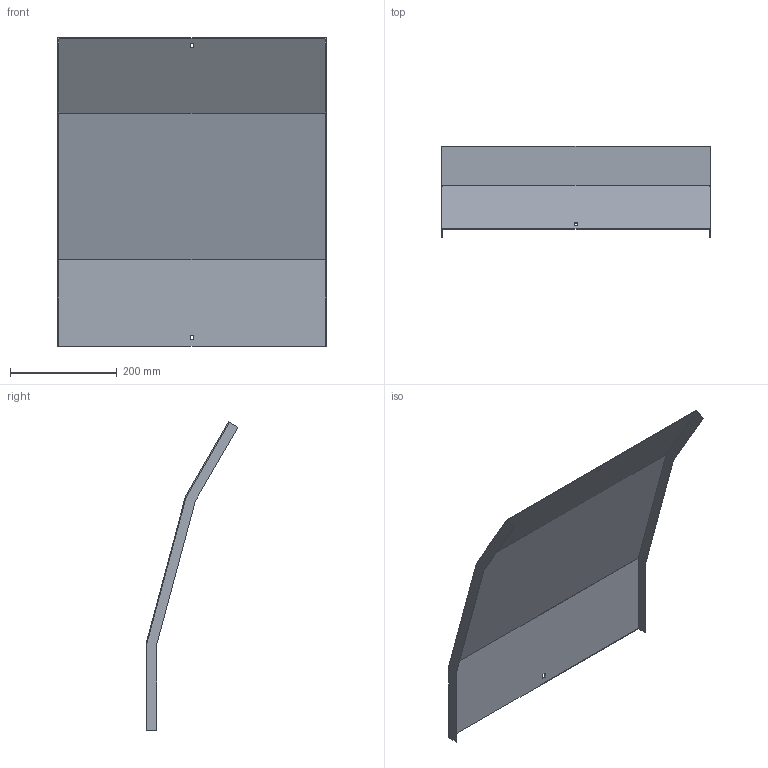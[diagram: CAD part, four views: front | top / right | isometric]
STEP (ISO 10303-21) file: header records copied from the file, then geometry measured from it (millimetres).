
FILE_DESCRIPTION (( 'STEP AP214' ), '1' );
FILE_NAME ('35N5C500.step', '2025-02-21T10:28:38', ( '' ), ( '' ), 'SwSTEP 2.0', 'SolidWorks 2023', '' );
FILE_SCHEMA (( 'AUTOMOTIVE_DESIGN' ));
Length unit declared in the file: millimetre
Products named in the file (1): 35N5C500
Bounding box: 503 x 172.21 x 578.06 mm (x, y, z)
Volume: 492933.4 mm3; surface area: 660755.7 mm2
Topology: 1 solids, 1 shells, 26 faces, 72 edges, 48 vertices
Faces by surface type: plane 26
Entity records: 847 total; most frequent: CARTESIAN_POINT 147, ORIENTED_EDGE 144, DIRECTION 126, LINE 72, EDGE_CURVE 72, VECTOR 72, VERTEX_POINT 48, EDGE_LOOP 30
